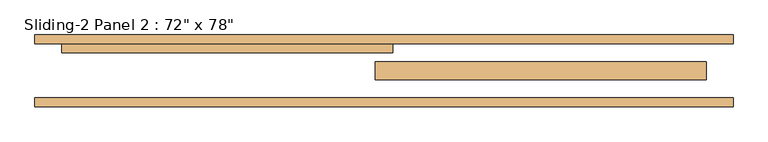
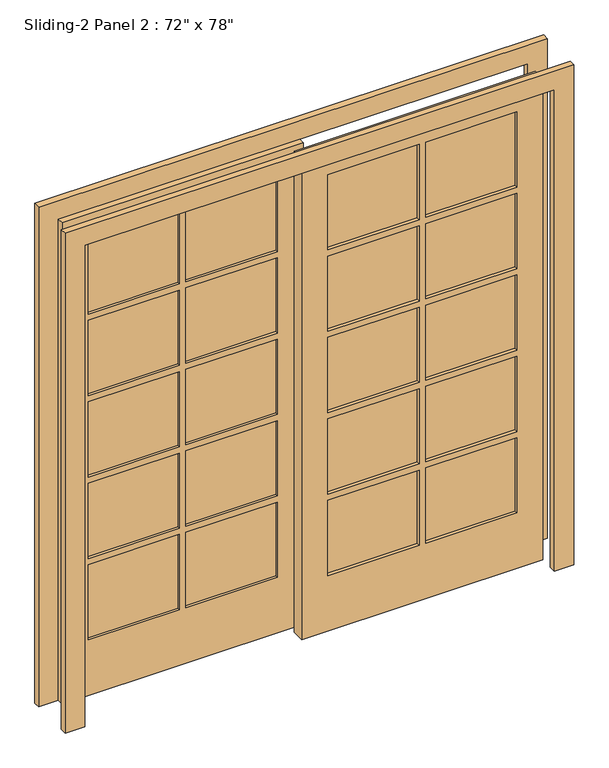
"""IFC4 building model written with IfcOpenShell, lengths in millimetres: door geometry."""

from ifc_helpers import new_model, si_unit, frame, origin, place, context, project, spatial, polyline, outline, extrude, source, transform, mapped, element, save


def door_c800ad3f(model_context):
    return source(origin(), model_context, "Body", "SweptSolid", [
        extrude(outline(polyline([(457.2, 139.4293121), (812.8, 139.4293121), (812.8, 114.8534681), (457.2, 114.8534681), (457.2, 139.4293121)])), frame((0.0, 0.0, 1569.72), z_axis=(0.0, 0.0, 1.0), x_axis=(1.0, 0.0, 0.0)), (0.0, 0.0, 1.0), 309.88),
        extrude(outline(polyline([(76.2, 139.4293121), (431.8, 139.4293121), (431.8, 114.8534681), (76.2, 114.8534681), (76.2, 139.4293121)])), frame((0.0, 0.0, 1569.72), z_axis=(0.0, 0.0, 1.0), x_axis=(1.0, 0.0, 0.0)), (0.0, 0.0, 1.0), 309.88),
        extrude(outline(polyline([(457.2, 139.4293121), (812.8, 139.4293121), (812.8, 114.8534681), (457.2, 114.8534681), (457.2, 139.4293121)])), frame((0.0, 0.0, 1234.44), z_axis=(0.0, 0.0, 1.0), x_axis=(1.0, 0.0, 0.0)), (0.0, 0.0, 1.0), 309.88),
        extrude(outline(polyline([(76.2, 139.4293121), (431.8, 139.4293121), (431.8, 114.8534681), (76.2, 114.8534681), (76.2, 139.4293121)])), frame((0.0, 0.0, 1234.44), z_axis=(0.0, 0.0, 1.0), x_axis=(1.0, 0.0, 0.0)), (0.0, 0.0, 1.0), 309.88),
        extrude(outline(polyline([(457.2, 139.4293121), (812.8, 139.4293121), (812.8, 114.8534681), (457.2, 114.8534681), (457.2, 139.4293121)])), frame((0.0, 0.0, 899.16), z_axis=(0.0, 0.0, 1.0), x_axis=(1.0, 0.0, 0.0)), (0.0, 0.0, 1.0), 309.88),
        extrude(outline(polyline([(76.2, 139.4293121), (431.8, 139.4293121), (431.8, 114.8534681), (76.2, 114.8534681), (76.2, 139.4293121)])), frame((0.0, 0.0, 899.16), z_axis=(0.0, 0.0, 1.0), x_axis=(1.0, 0.0, 0.0)), (0.0, 0.0, 1.0), 309.88),
        extrude(outline(polyline([(457.2, 139.4293121), (812.8, 139.4293121), (812.8, 114.8534681), (457.2, 114.8534681), (457.2, 139.4293121)])), frame((0.0, 0.0, 563.88), z_axis=(0.0, 0.0, 1.0), x_axis=(1.0, 0.0, 0.0)), (0.0, 0.0, 1.0), 309.88),
        extrude(outline(polyline([(76.2, 139.4293121), (431.8, 139.4293121), (431.8, 114.8534681), (76.2, 114.8534681), (76.2, 139.4293121)])), frame((0.0, 0.0, 563.88), z_axis=(0.0, 0.0, 1.0), x_axis=(1.0, 0.0, 0.0)), (0.0, 0.0, 1.0), 309.88),
        extrude(outline(polyline([(457.2, 139.4293121), (812.8, 139.4293121), (812.8, 114.8534681), (457.2, 114.8534681), (457.2, 139.4293121)])), frame((0.0, 0.0, 228.6), z_axis=(0.0, 0.0, 1.0), x_axis=(1.0, 0.0, 0.0)), (0.0, 0.0, 1.0), 309.88),
        extrude(outline(polyline([(76.2, 139.4293121), (431.8, 139.4293121), (431.8, 114.8534681), (76.2, 114.8534681), (76.2, 139.4293121)])), frame((0.0, 0.0, 228.6), z_axis=(0.0, 0.0, 1.0), x_axis=(1.0, 0.0, 0.0)), (0.0, 0.0, 1.0), 309.88),
        extrude(outline(polyline([(-457.2, 188.2711448), (-812.8, 188.2711448), (-812.8, 190.5), (-457.2, 190.5), (-457.2, 188.2711448)])), frame((0.0, 0.0, 1569.72), z_axis=(0.0, 0.0, 1.0), x_axis=(1.0, 0.0, 0.0)), (0.0, 0.0, 1.0), 309.88),
        extrude(outline(polyline([(-76.2, 188.2711448), (-431.8, 188.2711448), (-431.8, 190.5), (-76.2, 190.5), (-76.2, 188.2711448)])), frame((0.0, 0.0, 1569.72), z_axis=(0.0, 0.0, 1.0), x_axis=(1.0, 0.0, 0.0)), (0.0, 0.0, 1.0), 309.88),
        extrude(outline(polyline([(-76.2, 188.2711448), (-431.8, 188.2711448), (-431.8, 190.5), (-76.2, 190.5), (-76.2, 188.2711448)])), frame((0.0, 0.0, 1234.44), z_axis=(0.0, 0.0, 1.0), x_axis=(1.0, 0.0, 0.0)), (0.0, 0.0, 1.0), 309.88),
        extrude(outline(polyline([(-457.2, 188.2711448), (-812.8, 188.2711448), (-812.8, 190.5), (-457.2, 190.5), (-457.2, 188.2711448)])), frame((0.0, 0.0, 1234.44), z_axis=(0.0, 0.0, 1.0), x_axis=(1.0, 0.0, 0.0)), (0.0, 0.0, 1.0), 309.88),
        extrude(outline(polyline([(-76.2, 188.2711448), (-431.8, 188.2711448), (-431.8, 190.5), (-76.2, 190.5), (-76.2, 188.2711448)])), frame((0.0, 0.0, 899.16), z_axis=(0.0, 0.0, 1.0), x_axis=(1.0, 0.0, 0.0)), (0.0, 0.0, 1.0), 309.88),
        extrude(outline(polyline([(-457.2, 188.2711448), (-812.8, 188.2711448), (-812.8, 190.5), (-457.2, 190.5), (-457.2, 188.2711448)])), frame((0.0, 0.0, 899.16), z_axis=(0.0, 0.0, 1.0), x_axis=(1.0, 0.0, 0.0)), (0.0, 0.0, 1.0), 309.88),
        extrude(outline(polyline([(-76.2, 188.2711448), (-431.8, 188.2711448), (-431.8, 190.5), (-76.2, 190.5), (-76.2, 188.2711448)])), frame((0.0, 0.0, 563.88), z_axis=(0.0, 0.0, 1.0), x_axis=(1.0, 0.0, 0.0)), (0.0, 0.0, 1.0), 309.88),
        extrude(outline(polyline([(-457.2, 188.2711448), (-812.8, 188.2711448), (-812.8, 190.5), (-457.2, 190.5), (-457.2, 188.2711448)])), frame((0.0, 0.0, 563.88), z_axis=(0.0, 0.0, 1.0), x_axis=(1.0, 0.0, 0.0)), (0.0, 0.0, 1.0), 309.88),
        extrude(outline(polyline([(-457.2, 188.2711448), (-812.8, 188.2711448), (-812.8, 190.5), (-457.2, 190.5), (-457.2, 188.2711448)])), frame((0.0, 0.0, 228.6), z_axis=(0.0, 0.0, 1.0), x_axis=(1.0, 0.0, 0.0)), (0.0, 0.0, 1.0), 309.88),
        extrude(outline(polyline([(-76.2, 188.2711448), (-431.8, 188.2711448), (-431.8, 190.5), (-76.2, 190.5), (-76.2, 188.2711448)])), frame((0.0, 0.0, 228.6), z_axis=(0.0, 0.0, 1.0), x_axis=(1.0, 0.0, 0.0)), (0.0, 0.0, 1.0), 309.88),
        extrude(outline(polyline([(1981.2, -914.4), (0.0, -914.4), (0.0, 25.4), (1981.2, 25.4), (1981.2, -914.4)]), holes=[polyline([(228.6, -457.2), (228.6, -812.8), (538.48, -812.8), (538.48, -457.2), (228.6, -457.2)]), polyline([(1569.72, -812.8), (1879.6, -812.8), (1879.6, -457.2), (1569.72, -457.2), (1569.72, -812.8)]), polyline([(1879.6, -431.8), (1879.6, -76.2), (1569.72, -76.2), (1569.72, -431.8), (1879.6, -431.8)]), polyline([(538.48, -76.2), (228.6, -76.2), (228.6, -431.8), (538.48, -431.8), (538.48, -76.2)]), polyline([(1544.32, -457.2), (1234.44, -457.2), (1234.44, -812.8), (1544.32, -812.8), (1544.32, -457.2)]), polyline([(1209.04, -457.2), (899.16, -457.2), (899.16, -812.8), (1209.04, -812.8), (1209.04, -457.2)]), polyline([(873.76, -457.2), (563.88, -457.2), (563.88, -812.8), (873.76, -812.8), (873.76, -457.2)]), polyline([(1544.32, -76.2), (1234.44, -76.2), (1234.44, -431.8), (1544.32, -431.8), (1544.32, -76.2)]), polyline([(899.16, -431.8), (1209.04, -431.8), (1209.04, -76.2), (899.16, -76.2), (899.16, -431.8)]), polyline([(563.88, -431.8), (873.76, -431.8), (873.76, -76.2), (563.88, -76.2), (563.88, -431.8)])]), frame((0.0, 177.8, 0.0), z_axis=(0.0, 1.0, 0.0), x_axis=(0.0, 0.0, 1.0)), (0.0, 0.0, 1.0), 25.4),
        extrude(outline(polyline([(1981.2, -25.4), (0.0, -25.4), (0.0, 914.4), (1981.2, 914.4), (1981.2, -25.4)]), holes=[polyline([(1879.6, 457.2), (1879.6, 812.8), (1569.72, 812.8), (1569.72, 457.2), (1879.6, 457.2)]), polyline([(538.48, 812.8), (228.6, 812.8), (228.6, 457.2), (538.48, 457.2), (538.48, 812.8)]), polyline([(228.6, 431.8), (228.6, 76.2), (538.48, 76.2), (538.48, 431.8), (228.6, 431.8)]), polyline([(1569.72, 76.2), (1879.6, 76.2), (1879.6, 431.8), (1569.72, 431.8), (1569.72, 76.2)]), polyline([(1544.32, 457.2), (1544.32, 812.8), (1234.44, 812.8), (1234.44, 457.2), (1544.32, 457.2)]), polyline([(1209.04, 457.2), (1209.04, 812.8), (899.16, 812.8), (899.16, 457.2), (1209.04, 457.2)]), polyline([(899.16, 431.8), (899.16, 76.2), (1209.04, 76.2), (1209.04, 431.8), (899.16, 431.8)]), polyline([(873.76, 431.8), (563.88, 431.8), (563.88, 76.2), (873.76, 76.2), (873.76, 431.8)]), polyline([(563.88, 457.2), (873.76, 457.2), (873.76, 812.8), (563.88, 812.8), (563.88, 457.2)]), polyline([(1234.44, 76.2), (1544.32, 76.2), (1544.32, 431.8), (1234.44, 431.8), (1234.44, 76.2)])]), frame((0.0, 101.6, 0.0), z_axis=(0.0, 1.0, 0.0), x_axis=(0.0, 0.0, 1.0)), (0.0, 0.0, 1.0), 50.8),
        extrude(outline(polyline([(0.0, -990.6), (0.0, -914.4), (1981.2, -914.4), (1981.2, 914.4), (0.0, 914.4), (0.0, 990.6), (2057.4, 990.6), (2057.4, -990.6), (0.0, -990.6)])), frame((0.0, 25.4, 0.0), z_axis=(0.0, 1.0, 0.0), x_axis=(0.0, 0.0, 1.0)), (0.0, 0.0, 1.0), 25.4),
        extrude(outline(polyline([(0.0, 990.6), (2057.4, 990.6), (2057.4, -990.6), (0.0, -990.6), (0.0, -914.4), (1981.2, -914.4), (1981.2, 914.4), (0.0, 914.4), (0.0, 990.6)])), frame((0.0, 203.2, 0.0), z_axis=(0.0, 1.0, 0.0), x_axis=(0.0, 0.0, 1.0)), (0.0, 0.0, 1.0), 25.4),
    ])


if __name__ == "__main__":
    model = new_model("IFC4")
    model_context = context("Model", 3, world=origin())
    ifc_project = project(units=[si_unit("LENGTHUNIT", "METRE", prefix="MILLI")], contexts=[model_context])
    site = spatial("IfcSite", under=ifc_project)
    building = spatial("IfcBuilding", under=site)
    placement = place(None, origin())
    door_shape = door_c800ad3f(model_context)
    element("IfcDoor", 1, ObjectType="Sliding-2 Panel 2 : 72\" x 78\"", at=placement, inside=building, context=model_context, shape_type="MappedRepresentation", body=[
        mapped(door_shape, transform((0.0, 0.0, 0.0), x_axis=(1.0, 0.0, 0.0), y_axis=(0.0, 1.0, 0.0), z_axis=(0.0, 0.0, 1.0))),
    ])
    save(model, "model.ifc")
